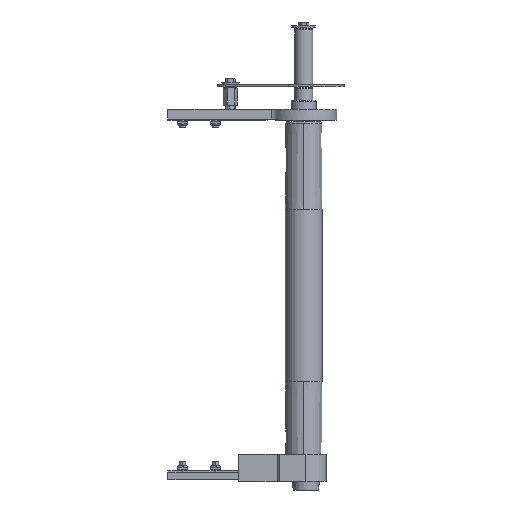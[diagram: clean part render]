
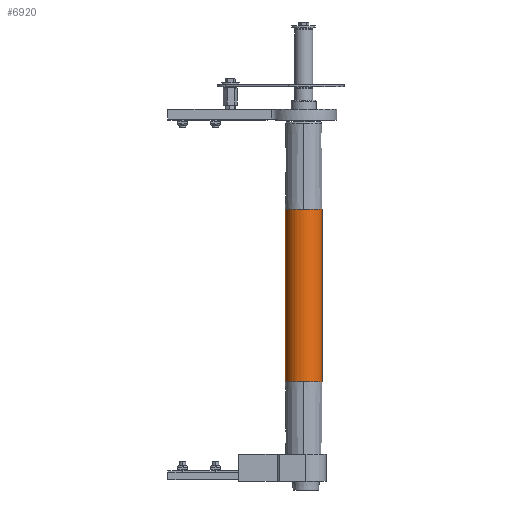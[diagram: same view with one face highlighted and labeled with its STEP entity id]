
A CAD part, front view. The second image highlights one B-rep face of the part: STEP entity #6920.
In plain terms, the highlighted cylindrical face has radius 25 mm (diameter 50 mm), a partial arc.
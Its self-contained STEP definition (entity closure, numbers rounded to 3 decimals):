
#335 = ORIENTED_EDGE ( 'NONE', *, *, #6539, .F. ) ;
#554 = CARTESIAN_POINT ( 'NONE',  ( -117.5, 0., 0. ) ) ;
#831 = AXIS2_PLACEMENT_3D ( 'NONE', #19044, #14200, #12452 ) ;
#2352 = VERTEX_POINT ( 'NONE', #13983 ) ;
#2543 = DIRECTION ( 'NONE',  ( 0., -1., 0. ) ) ;
#2914 = VERTEX_POINT ( 'NONE', #21078 ) ;
#3193 = CARTESIAN_POINT ( 'NONE',  ( 117.5, 0., 0. ) ) ;
#3993 = EDGE_CURVE ( 'NONE', #2352, #4708, #13261, .T. ) ;
#4708 = VERTEX_POINT ( 'NONE', #14658 ) ;
#4874 = CARTESIAN_POINT ( 'NONE',  ( -117.5, 25., 0. ) ) ;
#5311 = VECTOR ( 'NONE', #13221, 1000. ) ;
#5528 = DIRECTION ( 'NONE',  ( 0., -1., 0. ) ) ;
#5619 = CIRCLE ( 'NONE', #7381, 25. ) ;
#5759 = CARTESIAN_POINT ( 'NONE',  ( -117.5, 0., 0. ) ) ;
#6203 = EDGE_CURVE ( 'NONE', #6561, #15276, #9753, .T. ) ;
#6539 = EDGE_CURVE ( 'NONE', #18145, #15276, #15752, .T. ) ;
#6561 = VERTEX_POINT ( 'NONE', #14306 ) ;
#6920 = ADVANCED_FACE ( 'NONE', ( #20886 ), #12801, .T. ) ;
#6937 = EDGE_CURVE ( 'NONE', #4708, #18145, #10530, .T. ) ;
#7062 = EDGE_CURVE ( 'NONE', #2352, #2914, #20030, .T. ) ;
#7087 = AXIS2_PLACEMENT_3D ( 'NONE', #5759, #15829, #2543 ) ;
#7381 = AXIS2_PLACEMENT_3D ( 'NONE', #3193, #17583, #12906 ) ;
#7415 = CARTESIAN_POINT ( 'NONE',  ( 235., 0., 25. ) ) ;
#7846 = DIRECTION ( 'NONE',  ( 0., -1., 0. ) ) ;
#7989 = DIRECTION ( 'NONE',  ( -1., 0., 0. ) ) ;
#8333 = ORIENTED_EDGE ( 'NONE', *, *, #18942, .T. ) ;
#8820 = VECTOR ( 'NONE', #19114, 1000. ) ;
#8893 = AXIS2_PLACEMENT_3D ( 'NONE', #18008, #7989, #7846 ) ;
#9180 = AXIS2_PLACEMENT_3D ( 'NONE', #554, #9240, #5528 ) ;
#9240 = DIRECTION ( 'NONE',  ( -1., 0., 0. ) ) ;
#9753 = LINE ( 'NONE', #13441, #5311 ) ;
#10530 = CIRCLE ( 'NONE', #9180, 25. ) ;
#11385 = EDGE_LOOP ( 'NONE', ( #19649, #8333, #21603, #335, #17038, #13476 ) ) ;
#12452 = DIRECTION ( 'NONE',  ( 0., 0., 1. ) ) ;
#12801 = CYLINDRICAL_SURFACE ( 'NONE', #831, 25. ) ;
#12906 = DIRECTION ( 'NONE',  ( 0., -1., 0. ) ) ;
#13221 = DIRECTION ( 'NONE',  ( -1., 0., 0. ) ) ;
#13261 = LINE ( 'NONE', #7415, #8820 ) ;
#13441 = CARTESIAN_POINT ( 'NONE',  ( 235., 0., -25. ) ) ;
#13476 = ORIENTED_EDGE ( 'NONE', *, *, #3993, .F. ) ;
#13983 = CARTESIAN_POINT ( 'NONE',  ( 117.5, 0., 25. ) ) ;
#14200 = DIRECTION ( 'NONE',  ( -1., 0., 0. ) ) ;
#14306 = CARTESIAN_POINT ( 'NONE',  ( 117.5, 0., -25. ) ) ;
#14658 = CARTESIAN_POINT ( 'NONE',  ( -117.5, 0., 25. ) ) ;
#15276 = VERTEX_POINT ( 'NONE', #17256 ) ;
#15752 = CIRCLE ( 'NONE', #7087, 25. ) ;
#15829 = DIRECTION ( 'NONE',  ( -1., 0., 0. ) ) ;
#17038 = ORIENTED_EDGE ( 'NONE', *, *, #6937, .F. ) ;
#17256 = CARTESIAN_POINT ( 'NONE',  ( -117.5, 0., -25. ) ) ;
#17583 = DIRECTION ( 'NONE',  ( -1., 0., 0. ) ) ;
#18008 = CARTESIAN_POINT ( 'NONE',  ( 117.5, 0., 0. ) ) ;
#18145 = VERTEX_POINT ( 'NONE', #4874 ) ;
#18942 = EDGE_CURVE ( 'NONE', #2914, #6561, #5619, .T. ) ;
#19044 = CARTESIAN_POINT ( 'NONE',  ( 235., 0., 0. ) ) ;
#19114 = DIRECTION ( 'NONE',  ( -1., 0., 0. ) ) ;
#19649 = ORIENTED_EDGE ( 'NONE', *, *, #7062, .T. ) ;
#20030 = CIRCLE ( 'NONE', #8893, 25. ) ;
#20886 = FACE_OUTER_BOUND ( 'NONE', #11385, .T. ) ;
#21078 = CARTESIAN_POINT ( 'NONE',  ( 117.5, 25., 0. ) ) ;
#21603 = ORIENTED_EDGE ( 'NONE', *, *, #6203, .T. ) ;
